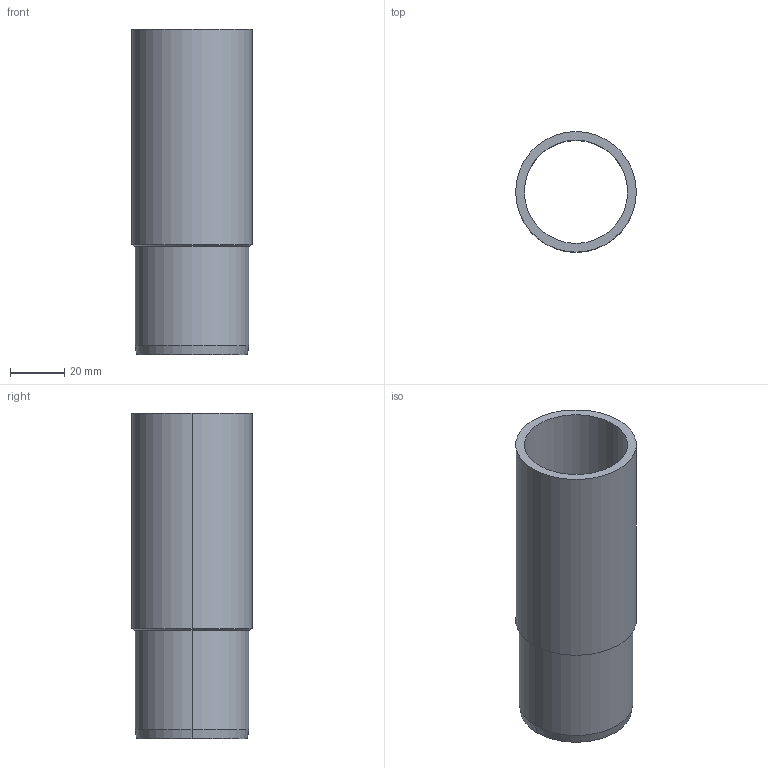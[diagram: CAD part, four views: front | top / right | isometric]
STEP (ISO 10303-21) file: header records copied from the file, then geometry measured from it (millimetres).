
FILE_DESCRIPTION(('OneSpaceDesigner STEP Export'),'2;1');
FILE_NAME('C1432 44.5x42.stp','2010-06-15T16:32:14',(''),(''),'OneSpace Designer STEP processor for AP214 (Solid Model)','OneSpace Modeling 15.00A 14-Mar-2007 (C) CoCreate Software GmbH','');
FILE_SCHEMA(('AUTOMOTIVE_DESIGN { 1 0 10303 214 1 1 1 1 }'));
Length unit declared in the file: millimetre
Products named in the file (2): C1432_44.5x42
Assembly tree (1 placements, depth 2):
  C1432_44.5x42
    C1432_44.5x42
Bounding box: 44.5 x 44.5 x 120 mm (x, y, z)
Volume: 40676.3 mm3; surface area: 31631.6 mm2
Topology: 1 solids, 1 shells, 16 faces, 32 edges, 20 vertices
Faces by surface type: cylinder 8, plane 4, cone 4
Entity records: 393 total; most frequent: ORIENTED_EDGE 64, DIRECTION 56, CARTESIAN_POINT 54, EDGE_CURVE 32, AXIS2_PLACEMENT_3D 22, VERTEX_POINT 20, EDGE_LOOP 20, FACE_OUTER_BOUND 16
